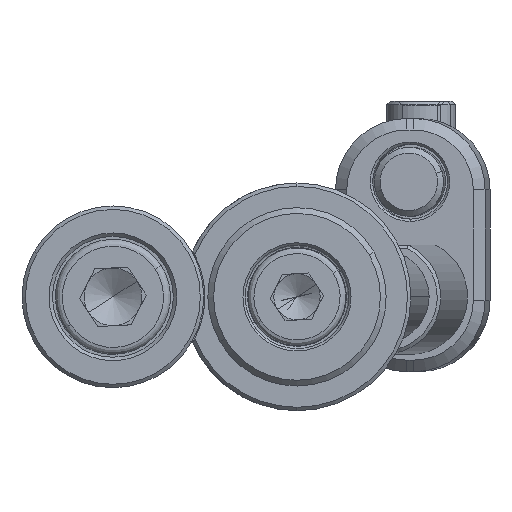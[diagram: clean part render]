
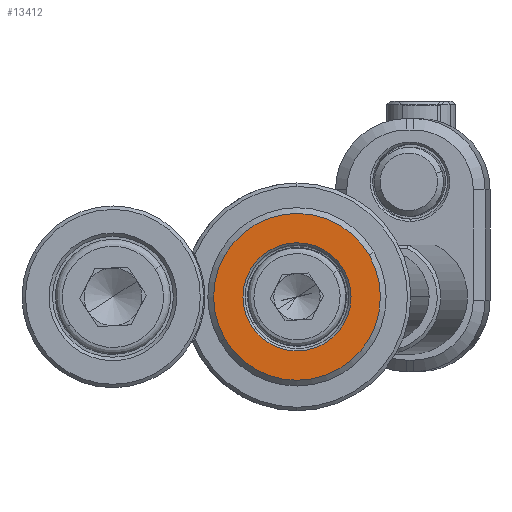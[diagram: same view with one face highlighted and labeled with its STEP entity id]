
A CAD part, front view. The second image highlights one B-rep face of the part: STEP entity #13412.
In plain terms, the highlighted planar face has unit normal (0, -1, 0).
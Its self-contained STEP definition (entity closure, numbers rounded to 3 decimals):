
#687 = CARTESIAN_POINT ( 'NONE',  ( 2.261, -4., -3.891 ) ) ;
#1209 = EDGE_LOOP ( 'NONE', ( #5458, #2122 ) ) ;
#1215 = VERTEX_POINT ( 'NONE', #6322 ) ;
#2122 = ORIENTED_EDGE ( 'NONE', *, *, #5606, .T. ) ;
#2420 = EDGE_LOOP ( 'NONE', ( #2830, #12110 ) ) ;
#2672 = CARTESIAN_POINT ( 'NONE',  ( 0., -4., 0. ) ) ;
#2741 = DIRECTION ( 'NONE',  ( -0.865, 0., -0.503 ) ) ;
#2830 = ORIENTED_EDGE ( 'NONE', *, *, #10734, .T. ) ;
#3344 = AXIS2_PLACEMENT_3D ( 'NONE', #10290, #7048, #6966 ) ;
#3539 = DIRECTION ( 'NONE',  ( 0., -1., 0. ) ) ;
#4046 = CIRCLE ( 'NONE', #3344, 4.7 ) ;
#4122 = DIRECTION ( 'NONE',  ( 0., 1., 0. ) ) ;
#4499 = DIRECTION ( 'NONE',  ( -0.865, 0., -0.503 ) ) ;
#4600 = EDGE_CURVE ( 'NONE', #7557, #9878, #4046, .T. ) ;
#4842 = FACE_OUTER_BOUND ( 'NONE', #1209, .T. ) ;
#4916 = AXIS2_PLACEMENT_3D ( 'NONE', #687, #4122, #8314 ) ;
#4989 = CIRCLE ( 'NONE', #7527, 4.7 ) ;
#5458 = ORIENTED_EDGE ( 'NONE', *, *, #12317, .T. ) ;
#5606 = EDGE_CURVE ( 'NONE', #5768, #1215, #7654, .T. ) ;
#5722 = DIRECTION ( 'NONE',  ( 0., 1., 0. ) ) ;
#5768 = VERTEX_POINT ( 'NONE', #11608 ) ;
#6322 = CARTESIAN_POINT ( 'NONE',  ( -6.268, -4., -3.643 ) ) ;
#6966 = DIRECTION ( 'NONE',  ( -0.865, 0., -0.503 ) ) ;
#7023 = CARTESIAN_POINT ( 'NONE',  ( -4.063, -4., -2.362 ) ) ;
#7048 = DIRECTION ( 'NONE',  ( 0., 1., 0. ) ) ;
#7527 = AXIS2_PLACEMENT_3D ( 'NONE', #11185, #5722, #4499 ) ;
#7557 = VERTEX_POINT ( 'NONE', #7023 ) ;
#7654 = CIRCLE ( 'NONE', #9712, 7.25 ) ;
#8314 = DIRECTION ( 'NONE',  ( -0.865, 0., -0.503 ) ) ;
#9238 = FACE_BOUND ( 'NONE', #2420, .T. ) ;
#9700 = AXIS2_PLACEMENT_3D ( 'NONE', #12750, #13597, #11614 ) ;
#9712 = AXIS2_PLACEMENT_3D ( 'NONE', #2672, #3539, #2741 ) ;
#9878 = VERTEX_POINT ( 'NONE', #11672 ) ;
#10290 = CARTESIAN_POINT ( 'NONE',  ( 0., -4., 0. ) ) ;
#10734 = EDGE_CURVE ( 'NONE', #9878, #7557, #4989, .T. ) ;
#11185 = CARTESIAN_POINT ( 'NONE',  ( 0., -4., 0. ) ) ;
#11608 = CARTESIAN_POINT ( 'NONE',  ( 6.268, -4., 3.643 ) ) ;
#11614 = DIRECTION ( 'NONE',  ( -0.865, 0., -0.503 ) ) ;
#11672 = CARTESIAN_POINT ( 'NONE',  ( 4.063, -4., 2.362 ) ) ;
#12110 = ORIENTED_EDGE ( 'NONE', *, *, #4600, .T. ) ;
#12317 = EDGE_CURVE ( 'NONE', #1215, #5768, #14036, .T. ) ;
#12750 = CARTESIAN_POINT ( 'NONE',  ( 0., -4., 0. ) ) ;
#13412 = ADVANCED_FACE ( 'NONE', ( #9238, #4842 ), #13601, .F. ) ;
#13597 = DIRECTION ( 'NONE',  ( 0., -1., 0. ) ) ;
#13601 = PLANE ( 'NONE',  #4916 ) ;
#14036 = CIRCLE ( 'NONE', #9700, 7.25 ) ;
